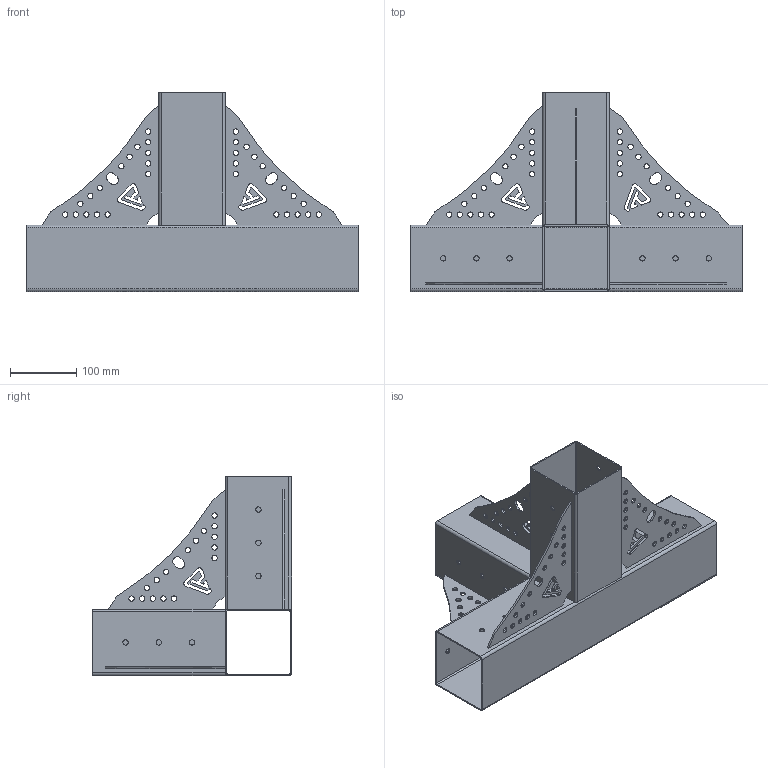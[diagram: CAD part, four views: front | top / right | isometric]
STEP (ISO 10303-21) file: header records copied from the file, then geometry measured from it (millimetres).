
FILE_DESCRIPTION(('STEP AP214'), '1');
FILE_NAME('岈檠倛 鼁闉罻', '', ('UNSPECIFIED'), ('UNSPECIFIED'), 'C3D Converter', 'C3D Toolkit', '');
FILE_SCHEMA(('AUTOMOTIVE_DESIGN { 1 0 10303 214 3 1 1}'));
Length unit declared in the file: millimetre
Products named in the file (7): АКСЛ.298.400 СБ; АКСЛ.298.402; АКСЛ.298.401; АКСЛ.298.201; 0; 3D Узел_3; 3D Узел_2
Assembly tree (11 placements, depth 4):
  АКСЛ.298.400 СБ
    АКСЛ.298.402
    АКСЛ.298.401  x2
    АКСЛ.298.201  x5
      0
        3D Узел_3
        3D Узел_2
Bounding box: 500 x 300 x 300 mm (x, y, z)
Volume: 890338.4 mm3; surface area: 850518 mm2
Topology: 8 solids, 8 shells, 998 faces, 2946 edges, 1974 vertices
Faces by surface type: plane 850, cylinder 148
Full cylindrical faces by diameter (mm): 8 x104
Entity records: 9766 total; most frequent: CARTESIAN_POINT 1378, ORIENTED_EDGE 1324, DIRECTION 1270, EDGE_CURVE 662, LINE 554, VECTOR 554, VERTEX_POINT 464, AXIS2_PLACEMENT_3D 358
